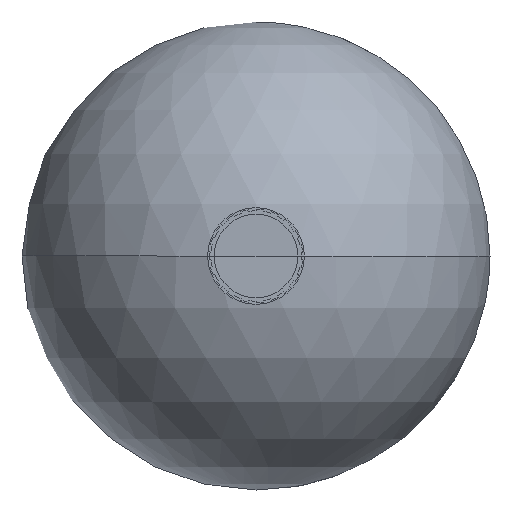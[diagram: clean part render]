
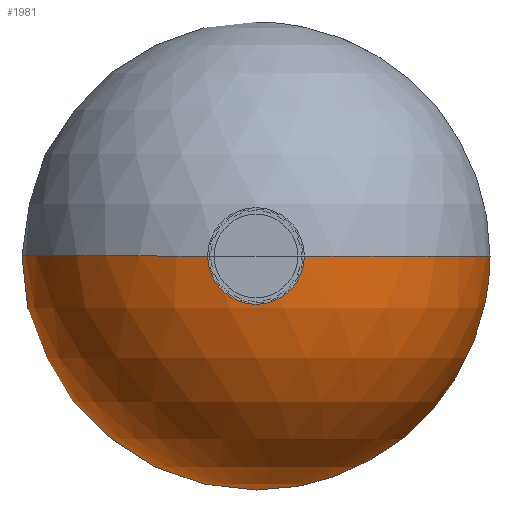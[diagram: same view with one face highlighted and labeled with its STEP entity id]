
A CAD part, front view. The second image highlights one B-rep face of the part: STEP entity #1981.
In plain terms, the highlighted spherical face has radius 150 mm.
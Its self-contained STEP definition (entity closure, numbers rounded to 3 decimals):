
#10 = AXIS2_PLACEMENT_3D ( 'NONE', #1026, #2527, #2094 ) ;
#60 = CARTESIAN_POINT ( 'NONE',  ( -14.236, -203.037, 0. ) ) ;
#62 = CIRCLE ( 'NONE', #10, 150. ) ;
#77 = DIRECTION ( 'NONE',  ( 1., 0., 0. ) ) ;
#137 = SPHERICAL_SURFACE ( 'NONE', #3023, 150. ) ;
#208 = CARTESIAN_POINT ( 'NONE',  ( -14.236, 96.963, 0. ) ) ;
#536 = CIRCLE ( 'NONE', #588, 150. ) ;
#559 = VERTEX_POINT ( 'NONE', #208 ) ;
#588 = AXIS2_PLACEMENT_3D ( 'NONE', #1061, #2332, #77 ) ;
#1026 = CARTESIAN_POINT ( 'NONE',  ( -14.236, -53.037, 0. ) ) ;
#1061 = CARTESIAN_POINT ( 'NONE',  ( -14.236, -53.037, 0. ) ) ;
#1141 = DIRECTION ( 'NONE',  ( 0., 0., 1. ) ) ;
#1466 = VERTEX_POINT ( 'NONE', #60 ) ;
#1644 = ORIENTED_EDGE ( 'NONE', *, *, #3106, .T. ) ;
#1689 = ORIENTED_EDGE ( 'NONE', *, *, #1897, .F. ) ;
#1897 = EDGE_CURVE ( 'NONE', #559, #1466, #536, .T. ) ;
#1914 = DIRECTION ( 'NONE',  ( 1., 0., 0. ) ) ;
#1981 = ADVANCED_FACE ( 'NONE', ( #2397 ), #137, .T. ) ;
#2094 = DIRECTION ( 'NONE',  ( -1., 0., 0. ) ) ;
#2148 = EDGE_LOOP ( 'NONE', ( #1689, #1644 ) ) ;
#2332 = DIRECTION ( 'NONE',  ( 0., 0., 1. ) ) ;
#2397 = FACE_OUTER_BOUND ( 'NONE', #2148, .T. ) ;
#2413 = CARTESIAN_POINT ( 'NONE',  ( -14.236, -53.037, 0. ) ) ;
#2527 = DIRECTION ( 'NONE',  ( 0., 0., -1. ) ) ;
#3023 = AXIS2_PLACEMENT_3D ( 'NONE', #2413, #1141, #1914 ) ;
#3106 = EDGE_CURVE ( 'NONE', #559, #1466, #62, .T. ) ;
